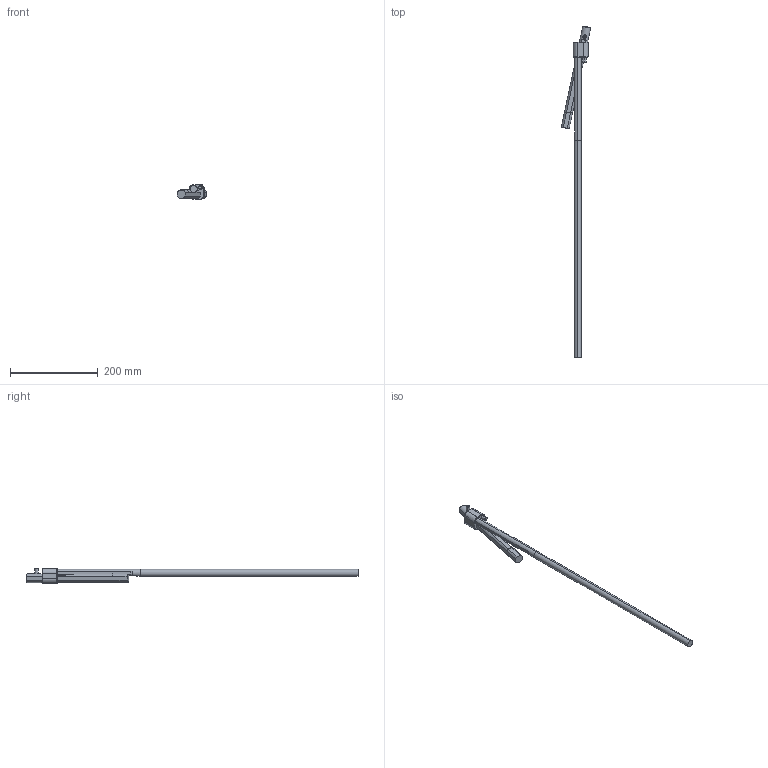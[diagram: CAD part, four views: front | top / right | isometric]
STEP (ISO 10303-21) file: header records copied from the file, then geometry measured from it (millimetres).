
FILE_DESCRIPTION (( 'STEP AP214' ), '1' );
FILE_NAME ('DR34125L-12-00.STEP', '2020-04-22T14:17:46', ( '' ), ( '' ), 'SwSTEP 2.0', 'SolidWorks 2019', '' );
FILE_SCHEMA (( 'AUTOMOTIVE_DESIGN' ));
Length unit declared in the file: millimetre
Products named in the file (9): 9DR3408FF; 8DR3408FF; 9DR34-AL; 9DR3408-TOR; 9DR34125L-EI_B12-00; DR34125L-12-00; 3IMAN5X3-150; 9DR34XX20-BASE_BASE-12; 9DR34125L-EV_B12-00
Assembly tree (8 placements, depth 3):
  DR34125L-12-00
    9DR34XX20-BASE_BASE-12
    9DR34125L-EI_B12-00
    9DR34125L-EV_B12-00
    9DR34-AL
    9DR3408-TOR
    9DR3408FF
      8DR3408FF
      3IMAN5X3-150
Bounding box: 66.42 x 754.58 x 34 mm (x, y, z)
Volume: 226316.3 mm3; surface area: 64467.2 mm2
Topology: 7 solids, 7 shells, 200 faces, 460 edges, 278 vertices
Faces by surface type: plane 76, cylinder 61, cone 47, torus 16
Entity records: 6232 total; most frequent: CARTESIAN_POINT 1256, DIRECTION 1018, ORIENTED_EDGE 908, EDGE_CURVE 454, AXIS2_PLACEMENT_3D 394, VERTEX_POINT 278, VECTOR 230, LINE 230
